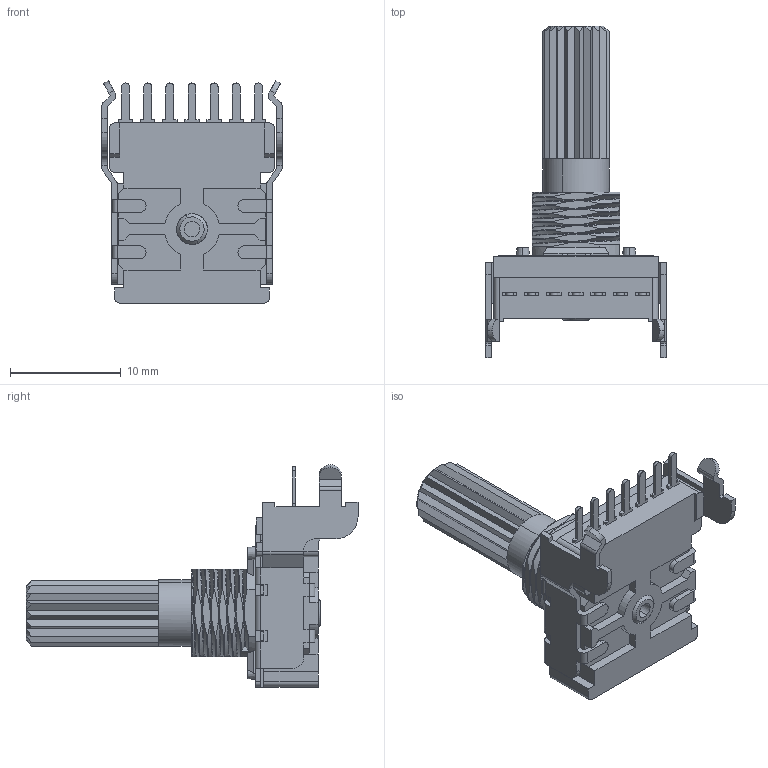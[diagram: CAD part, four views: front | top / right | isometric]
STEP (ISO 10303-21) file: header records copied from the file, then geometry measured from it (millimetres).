
FILE_DESCRIPTION (( 'STEP AP203' ), '1' );
FILE_NAME ('P140KV1-Y20.STEP', '2026-09-14T20:02:36', ( '' ), ( '' ), 'SwSTEP 2.0', 'SolidWorks 2026', '' );
FILE_SCHEMA (( 'CONFIG_CONTROL_DESIGN' ));
Length unit declared in the file: millimetre
Products named in the file (8): KV_housing; Housing; H-terminal; P140KV1-Y20; KV1 bracket; spring_plate; bushing; 1-Y20
Assembly tree (13 placements, depth 3):
  P140KV1-Y20
    KV_housing
      Housing
      H-terminal  x7
    1-Y20
    spring_plate
    bushing
    KV1 bracket
Bounding box: 16.3 x 30 x 20.1 mm (x, y, z)
Volume: 1660.9 mm3; surface area: 3213 mm2
Topology: 12 solids, 12 shells, 768 faces, 2073 edges, 1330 vertices
Faces by surface type: plane 493, cylinder 179, bspline 61, cone 33, torus 2
Entity records: 36567 total; most frequent: CARTESIAN_POINT 18329, ORIENTED_EDGE 3858, DIRECTION 3266, EDGE_CURVE 1929, VERTEX_POINT 1234, LINE 1228, VECTOR 1228, AXIS2_PLACEMENT_3D 1019
